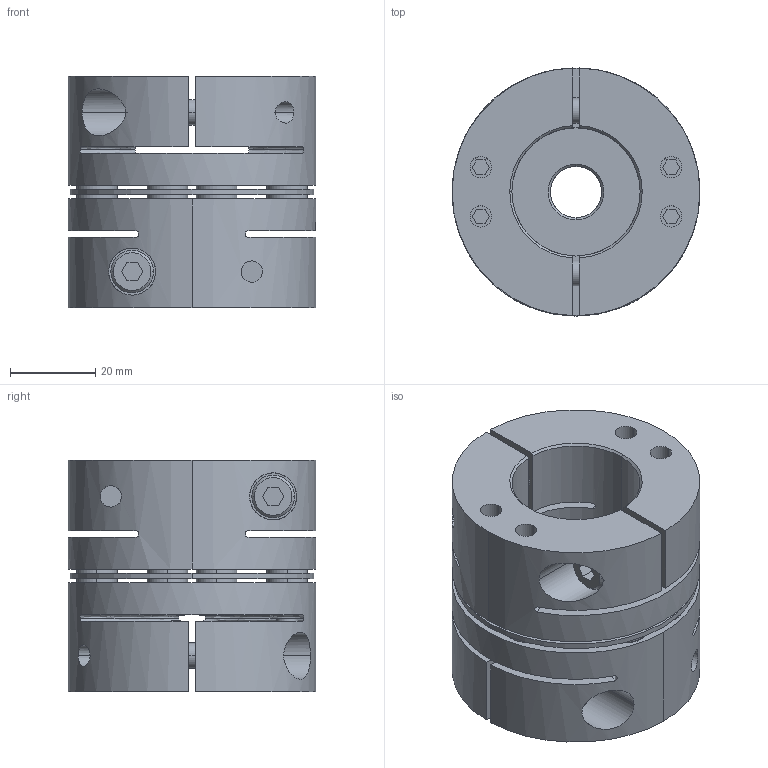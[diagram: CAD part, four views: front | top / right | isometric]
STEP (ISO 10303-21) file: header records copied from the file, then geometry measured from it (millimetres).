
FILE_DESCRIPTION((''),'2;1');
FILE_NAME('TAS-58C-12×30.stp','2022-11-14T22:08:16',(''),(''),'AutoCAD STEP 2000i','AutoCAD 2000i',', , ');
FILE_SCHEMA(('CONFIG_CONTROL_DESIGN'));
Length unit declared in the file: millimetre
Products named in the file (6): TAS-58C-12×22; 忣兜1; TA58C-22; CAP-M6×20; TA58C-12-2; TA58C-12
Assembly tree (7 placements, depth 3):
  TAS-58C-12×22
    忣兜1
    TA58C-22
      CAP-M6×20
    TA58C-12-2
      CAP-M6×20
    TA58C-12
      CAP-M6×20
Bounding box: 58 x 58 x 54.25 mm (x, y, z)
Volume: 101302.7 mm3; surface area: 41172.6 mm2
Topology: 1 solids, 1 shells, 360 faces, 900 edges, 628 vertices
Faces by surface type: plane 160, cylinder 148, cone 36, bspline 16
Entity records: 12981 total; most frequent: CARTESIAN_POINT 4008, DIRECTION 1922, ORIENTED_EDGE 1720, EDGE_CURVE 860, AXIS2_PLACEMENT_3D 732, VERTEX_POINT 564, EDGE_LOOP 464, VECTOR 458
